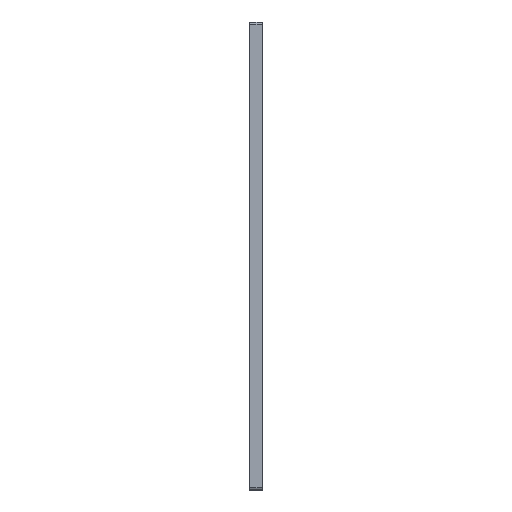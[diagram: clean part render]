
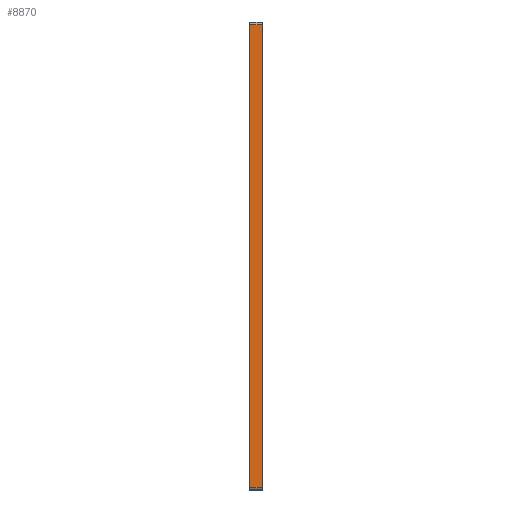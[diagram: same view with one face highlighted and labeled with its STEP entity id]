
A CAD part, left-side view. The second image highlights one B-rep face of the part: STEP entity #8870.
In plain terms, the highlighted planar face has unit normal (-1, 0, 0).
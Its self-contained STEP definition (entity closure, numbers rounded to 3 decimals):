
#111 = CARTESIAN_POINT ( 'NONE',  ( -600., 15., -280. ) ) ;
#243 = LINE ( 'NONE', #7830, #4201 ) ;
#513 = VERTEX_POINT ( 'NONE', #11334 ) ;
#824 = LINE ( 'NONE', #4369, #7787 ) ;
#954 = CARTESIAN_POINT ( 'NONE',  ( -600., 15., -277. ) ) ;
#1019 = EDGE_LOOP ( 'NONE', ( #8093, #11033, #8113, #9144 ) ) ;
#1794 = VECTOR ( 'NONE', #9121, 1000. ) ;
#1935 = DIRECTION ( 'NONE',  ( 1., 0., 0. ) ) ;
#2264 = VECTOR ( 'NONE', #6236, 1000. ) ;
#3611 = AXIS2_PLACEMENT_3D ( 'NONE', #7385, #1935, #8268 ) ;
#4198 = DIRECTION ( 'NONE',  ( 0., 0., 1. ) ) ;
#4201 = VECTOR ( 'NONE', #4198, 1000. ) ;
#4369 = CARTESIAN_POINT ( 'NONE',  ( -600., 15., 277. ) ) ;
#4422 = CARTESIAN_POINT ( 'NONE',  ( -600., 15., -277. ) ) ;
#4958 = LINE ( 'NONE', #4422, #2264 ) ;
#5081 = CARTESIAN_POINT ( 'NONE',  ( -600., 15., 277. ) ) ;
#5295 = DIRECTION ( 'NONE',  ( 0., 1., 0. ) ) ;
#6236 = DIRECTION ( 'NONE',  ( 0., -1., 0. ) ) ;
#6463 = PLANE ( 'NONE',  #3611 ) ;
#7027 = EDGE_CURVE ( 'NONE', #11739, #8794, #824, .T. ) ;
#7385 = CARTESIAN_POINT ( 'NONE',  ( -600., 15., -280. ) ) ;
#7489 = EDGE_CURVE ( 'NONE', #513, #11739, #243, .T. ) ;
#7575 = CARTESIAN_POINT ( 'NONE',  ( -600., 0., 277. ) ) ;
#7787 = VECTOR ( 'NONE', #5295, 1000. ) ;
#7830 = CARTESIAN_POINT ( 'NONE',  ( -600., 0., -280. ) ) ;
#7937 = EDGE_CURVE ( 'NONE', #10422, #8794, #11381, .T. ) ;
#8093 = ORIENTED_EDGE ( 'NONE', *, *, #7937, .F. ) ;
#8113 = ORIENTED_EDGE ( 'NONE', *, *, #7489, .T. ) ;
#8268 = DIRECTION ( 'NONE',  ( 0., 0., -1. ) ) ;
#8794 = VERTEX_POINT ( 'NONE', #5081 ) ;
#8870 = ADVANCED_FACE ( 'NONE', ( #10606 ), #6463, .F. ) ;
#9121 = DIRECTION ( 'NONE',  ( 0., 0., 1. ) ) ;
#9144 = ORIENTED_EDGE ( 'NONE', *, *, #7027, .T. ) ;
#9874 = EDGE_CURVE ( 'NONE', #10422, #513, #4958, .T. ) ;
#10422 = VERTEX_POINT ( 'NONE', #954 ) ;
#10606 = FACE_OUTER_BOUND ( 'NONE', #1019, .T. ) ;
#11033 = ORIENTED_EDGE ( 'NONE', *, *, #9874, .T. ) ;
#11334 = CARTESIAN_POINT ( 'NONE',  ( -600., 0., -277. ) ) ;
#11381 = LINE ( 'NONE', #111, #1794 ) ;
#11739 = VERTEX_POINT ( 'NONE', #7575 ) ;
